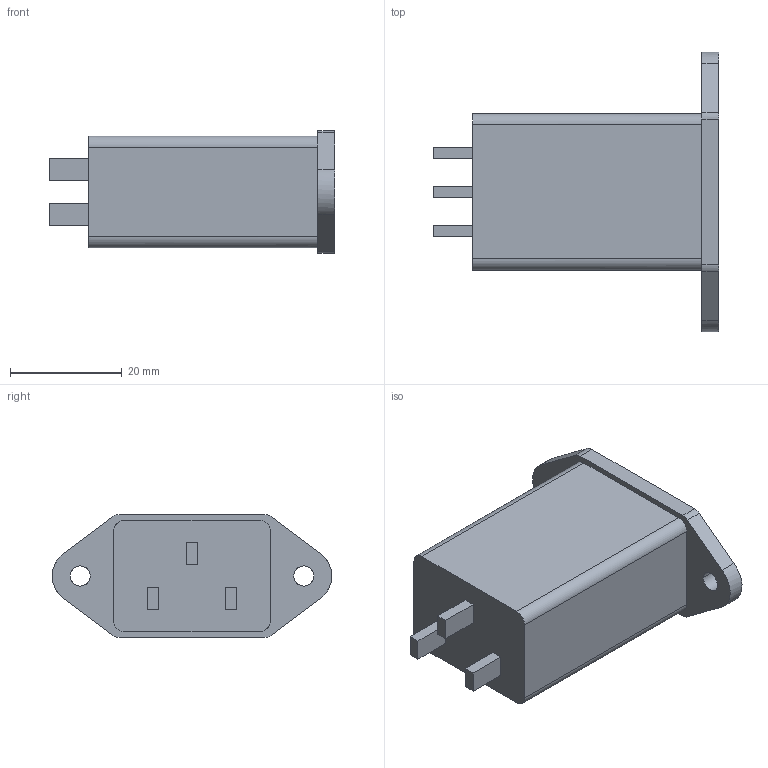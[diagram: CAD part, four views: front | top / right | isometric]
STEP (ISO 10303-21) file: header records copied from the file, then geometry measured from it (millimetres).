
FILE_DESCRIPTION(/* description */ (''),/* implementation_level */ '2;1');
FILE_NAME(/* name */ '9.electronics#9.4#la-dwp-1',/* time_stamp */ '2014-12-01T20:18:50+01:00',/* author */ (''),/* organization */ (''),/* preprocessor_version */ 'ST-DEVELOPER v14',/* originating_system */ '',/* authorisation */ '');
FILE_SCHEMA (('AUTOMOTIVE_DESIGN'));
Length unit declared in the file: millimetre
Products named in the file (1): Document
Bounding box: 51 x 49.98 x 22 mm (x, y, z)
Volume: 19942.6 mm3; surface area: 7903.4 mm2
Topology: 1 solids, 1 shells, 91 faces, 228 edges, 148 vertices
Faces by surface type: bspline 52, plane 39
Entity records: 5139 total; most frequent: CARTESIAN_POINT 2275, B_SPLINE_CURVE_WITH_KNOTS 478, ORIENTED_EDGE 456, PCURVE 456, DEFINITIONAL_REPRESENTATION 456, SURFACE_CURVE 228, EDGE_CURVE 228, VERTEX_POINT 148
